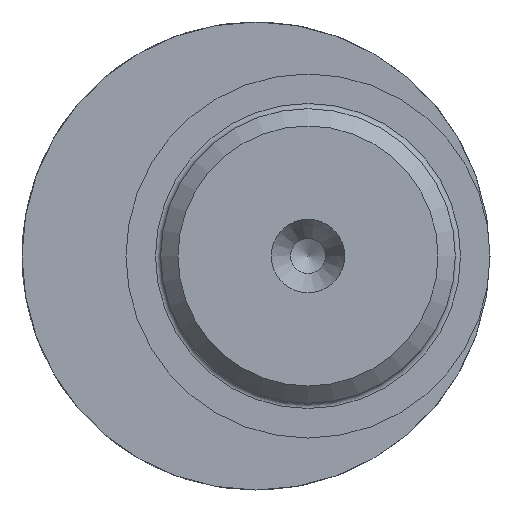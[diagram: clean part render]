
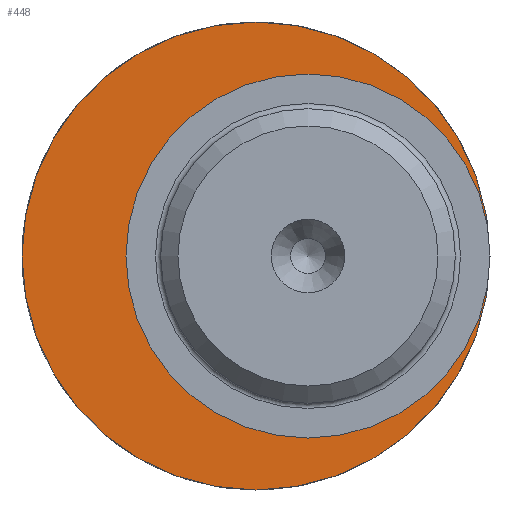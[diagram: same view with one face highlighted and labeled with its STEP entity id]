
A CAD part, left-side view. The second image highlights one B-rep face of the part: STEP entity #448.
In plain terms, the highlighted planar face has unit normal (-1, 0, 0).
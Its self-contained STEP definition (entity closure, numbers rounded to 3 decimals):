
#23=PLANE('',#509);
#57=FACE_OUTER_BOUND('',#90,.T.);
#90=EDGE_LOOP('',(#345,#346));
#170=CIRCLE('',#510,13.5);
#171=CIRCLE('',#511,10.5);
#215=VERTEX_POINT('',#805);
#262=EDGE_CURVE('',#215,#215,#170,.T.);
#263=EDGE_CURVE('',#215,#215,#171,.T.);
#345=ORIENTED_EDGE('',*,*,#262,.T.);
#346=ORIENTED_EDGE('',*,*,#263,.F.);
#448=ADVANCED_FACE('',(#57),#23,.T.);
#509=AXIS2_PLACEMENT_3D('',#804,#604,#605);
#510=AXIS2_PLACEMENT_3D('',#806,#606,#607);
#511=AXIS2_PLACEMENT_3D('',#807,#608,#609);
#604=DIRECTION('center_axis',(-1.,0.,0.));
#605=DIRECTION('ref_axis',(0.,0.,1.));
#606=DIRECTION('center_axis',(-1.,0.,0.));
#607=DIRECTION('ref_axis',(0.,0.,1.));
#608=DIRECTION('center_axis',(-1.,0.,0.));
#609=DIRECTION('ref_axis',(0.,1.,0.));
#804=CARTESIAN_POINT('Origin',(40.,3.,0.));
#805=CARTESIAN_POINT('',(40.,-10.5,0.));
#806=CARTESIAN_POINT('Origin',(40.,3.,0.));
#807=CARTESIAN_POINT('Origin',(40.,0.,0.));
